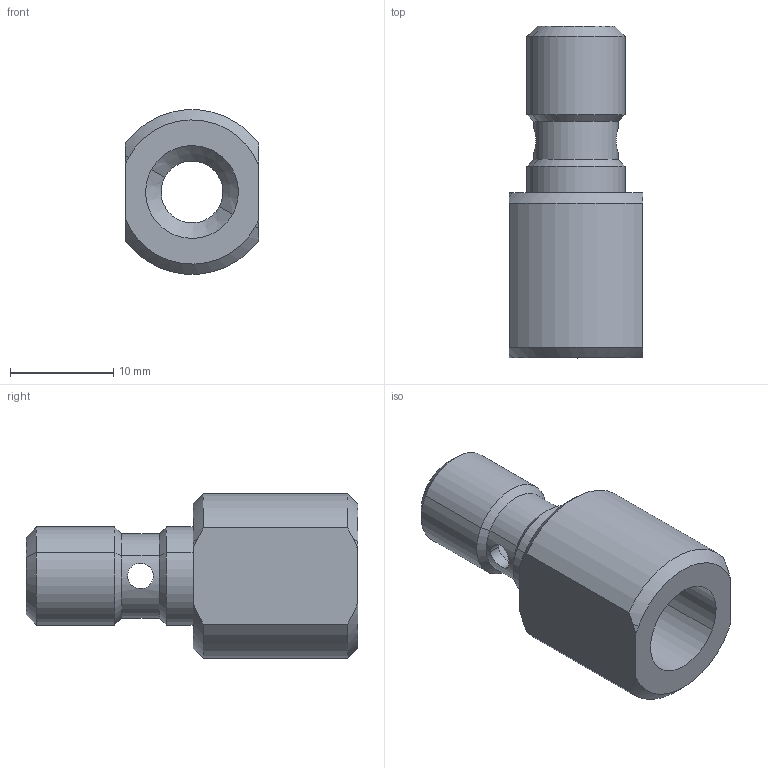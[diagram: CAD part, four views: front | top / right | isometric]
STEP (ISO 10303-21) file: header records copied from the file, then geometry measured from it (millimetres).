
FILE_DESCRIPTION(('CATIA V5 STEP Exchange'),'2;1');
FILE_NAME('C:\Users\Hashaam\Documents\CAD_Project\review\BRK_PRS_Sensor_Connection_live.stp','2026-10-06T14:42:13+00:00',('none'),('none'),'CATIA Version 5 Release 21 GA (IN-10)','CATIA V5 STEP AP203','none');
FILE_SCHEMA(('CONFIG_CONTROL_DESIGN'));
Length unit declared in the file: millimetre
Products named in the file (1): Part15
Bounding box: 13 x 32.2 x 15.94 mm (x, y, z)
Volume: 2571.2 mm3; surface area: 2216.8 mm2
Topology: 1 solids, 1 shells, 37 faces, 88 edges, 54 vertices
Faces by surface type: cylinder 16, cone 16, plane 5
Entity records: 1080 total; most frequent: CARTESIAN_POINT 296, ORIENTED_EDGE 176, DIRECTION 102, EDGE_CURVE 88, VERTEX_POINT 54, AXIS2_PLACEMENT_3D 52, EDGE_LOOP 44, ADVANCED_FACE 37
